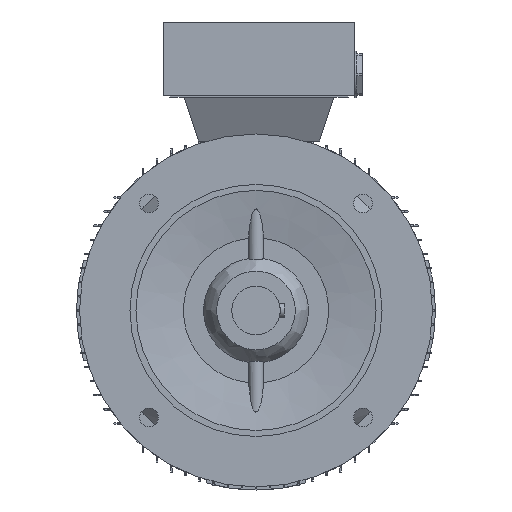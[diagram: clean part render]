
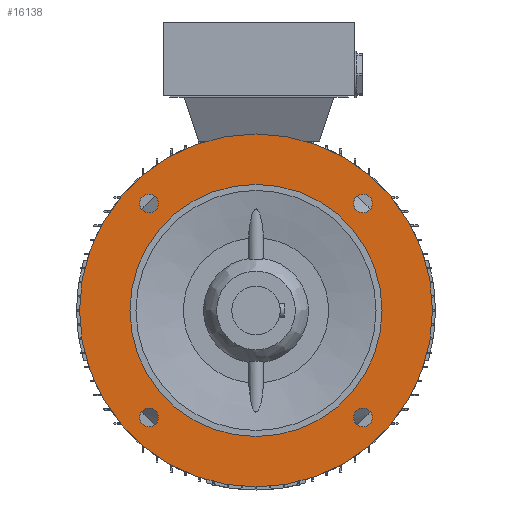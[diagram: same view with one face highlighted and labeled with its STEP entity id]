
A CAD part, left-side view. The second image highlights one B-rep face of the part: STEP entity #16138.
In plain terms, the highlighted planar face has unit normal (-1, 0, 0).
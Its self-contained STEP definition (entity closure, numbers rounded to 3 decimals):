
#161 = CIRCLE ( 'NONE', #22556, 9.25 ) ;
#188 = AXIS2_PLACEMENT_3D ( 'NONE', #6008, #10583, #26544 ) ;
#241 = CARTESIAN_POINT ( 'NONE',  ( -78., -106.066, 106.066 ) ) ;
#753 = CARTESIAN_POINT ( 'NONE',  ( -78., 0., 0. ) ) ;
#1355 = ORIENTED_EDGE ( 'NONE', *, *, #29217, .T. ) ;
#1585 = FACE_BOUND ( 'NONE', #4498, .T. ) ;
#2237 = ORIENTED_EDGE ( 'NONE', *, *, #10235, .T. ) ;
#2531 = DIRECTION ( 'NONE',  ( 0., 0., -1. ) ) ;
#3080 = DIRECTION ( 'NONE',  ( 0., 0., 1. ) ) ;
#3360 = DIRECTION ( 'NONE',  ( 1., 0., 0. ) ) ;
#3605 = CARTESIAN_POINT ( 'NONE',  ( -78., -106.066, 96.816 ) ) ;
#4498 = EDGE_LOOP ( 'NONE', ( #14600 ) ) ;
#4715 = CARTESIAN_POINT ( 'NONE',  ( -78., -106.066, -106.066 ) ) ;
#5887 = CARTESIAN_POINT ( 'NONE',  ( -78., 106.066, 96.816 ) ) ;
#5952 = VERTEX_POINT ( 'NONE', #5887 ) ;
#6008 = CARTESIAN_POINT ( 'NONE',  ( -78., 150., 0. ) ) ;
#6464 = DIRECTION ( 'NONE',  ( 1., 0., 0. ) ) ;
#6850 = EDGE_LOOP ( 'NONE', ( #2237 ) ) ;
#7018 = DIRECTION ( 'NONE',  ( 0., 0., -1. ) ) ;
#7469 = CIRCLE ( 'NONE', #14210, 175. ) ;
#7675 = FACE_BOUND ( 'NONE', #26286, .T. ) ;
#8072 = CARTESIAN_POINT ( 'NONE',  ( -78., -106.066, -115.316 ) ) ;
#10235 = EDGE_CURVE ( 'NONE', #13426, #13426, #14272, .T. ) ;
#10480 = PLANE ( 'NONE',  #188 ) ;
#10583 = DIRECTION ( 'NONE',  ( -1., 0., 0. ) ) ;
#12323 = CARTESIAN_POINT ( 'NONE',  ( -78., 0., 0. ) ) ;
#12652 = CARTESIAN_POINT ( 'NONE',  ( -78., 106.066, -115.316 ) ) ;
#12715 = VERTEX_POINT ( 'NONE', #28651 ) ;
#13426 = VERTEX_POINT ( 'NONE', #8072 ) ;
#13698 = FACE_BOUND ( 'NONE', #28844, .T. ) ;
#14210 = AXIS2_PLACEMENT_3D ( 'NONE', #12323, #28320, #14612 ) ;
#14272 = CIRCLE ( 'NONE', #24382, 9.25 ) ;
#14600 = ORIENTED_EDGE ( 'NONE', *, *, #15586, .T. ) ;
#14612 = DIRECTION ( 'NONE',  ( 0., 0., 1. ) ) ;
#15586 = EDGE_CURVE ( 'NONE', #18743, #18743, #161, .T. ) ;
#15628 = AXIS2_PLACEMENT_3D ( 'NONE', #753, #16712, #3080 ) ;
#16138 = ADVANCED_FACE ( 'NONE', ( #13698, #25858, #27294, #7675, #1585, #25090 ), #10480, .T. ) ;
#16204 = DIRECTION ( 'NONE',  ( 1., 0., 0. ) ) ;
#16712 = DIRECTION ( 'NONE',  ( 1., 0., 0. ) ) ;
#16983 = CARTESIAN_POINT ( 'NONE',  ( -78., 106.066, -106.066 ) ) ;
#17218 = CARTESIAN_POINT ( 'NONE',  ( -78., 0., 175. ) ) ;
#17248 = AXIS2_PLACEMENT_3D ( 'NONE', #241, #16204, #2531 ) ;
#18025 = VERTEX_POINT ( 'NONE', #3605 ) ;
#18726 = ORIENTED_EDGE ( 'NONE', *, *, #23970, .F. ) ;
#18743 = VERTEX_POINT ( 'NONE', #12652 ) ;
#18888 = ORIENTED_EDGE ( 'NONE', *, *, #19095, .T. ) ;
#19095 = EDGE_CURVE ( 'NONE', #12715, #12715, #27982, .T. ) ;
#19168 = EDGE_LOOP ( 'NONE', ( #18726 ) ) ;
#19279 = DIRECTION ( 'NONE',  ( 0., 0., -1. ) ) ;
#20095 = CARTESIAN_POINT ( 'NONE',  ( -78., 106.066, 106.066 ) ) ;
#20642 = DIRECTION ( 'NONE',  ( 1., 0., 0. ) ) ;
#20902 = CIRCLE ( 'NONE', #17248, 9.25 ) ;
#22385 = DIRECTION ( 'NONE',  ( 0., 0., -1. ) ) ;
#22556 = AXIS2_PLACEMENT_3D ( 'NONE', #16983, #3360, #19279 ) ;
#23970 = EDGE_CURVE ( 'NONE', #24104, #24104, #7469, .T. ) ;
#24104 = VERTEX_POINT ( 'NONE', #17218 ) ;
#24382 = AXIS2_PLACEMENT_3D ( 'NONE', #4715, #20642, #7018 ) ;
#24845 = CIRCLE ( 'NONE', #28768, 9.25 ) ;
#24980 = EDGE_LOOP ( 'NONE', ( #28998 ) ) ;
#25090 = FACE_BOUND ( 'NONE', #6850, .T. ) ;
#25858 = FACE_OUTER_BOUND ( 'NONE', #19168, .T. ) ;
#25882 = EDGE_CURVE ( 'NONE', #18025, #18025, #20902, .T. ) ;
#26286 = EDGE_LOOP ( 'NONE', ( #1355 ) ) ;
#26544 = DIRECTION ( 'NONE',  ( 0., 0., 1. ) ) ;
#27294 = FACE_BOUND ( 'NONE', #24980, .T. ) ;
#27982 = CIRCLE ( 'NONE', #15628, 125. ) ;
#28320 = DIRECTION ( 'NONE',  ( 1., 0., 0. ) ) ;
#28651 = CARTESIAN_POINT ( 'NONE',  ( -78., 0., 125. ) ) ;
#28768 = AXIS2_PLACEMENT_3D ( 'NONE', #20095, #6464, #22385 ) ;
#28844 = EDGE_LOOP ( 'NONE', ( #18888 ) ) ;
#28998 = ORIENTED_EDGE ( 'NONE', *, *, #25882, .T. ) ;
#29217 = EDGE_CURVE ( 'NONE', #5952, #5952, #24845, .T. ) ;
